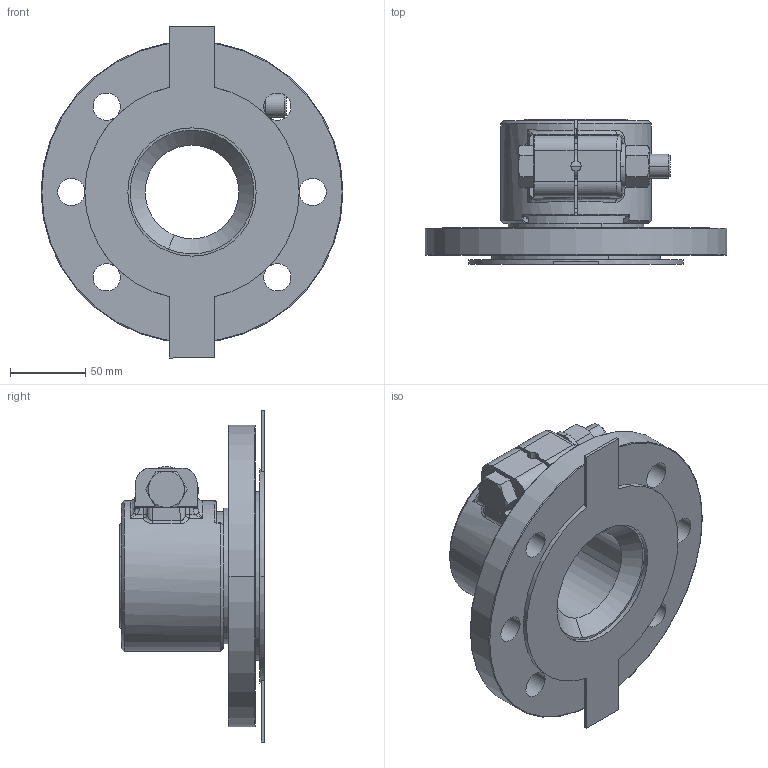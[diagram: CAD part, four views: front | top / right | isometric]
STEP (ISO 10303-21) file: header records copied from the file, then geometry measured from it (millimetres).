
FILE_DESCRIPTION (( 'STEP AP214' ), '1' );
FILE_NAME ('KP_C14-F5-90.step', '2012-05-23T14:31:38', ( 'robinj' ), ( 'Microsoft' ), 'SwSTEP 2.0', 'SolidWorks 2012', '' );
FILE_SCHEMA (( 'AUTOMOTIVE_DESIGN' ));
Length unit declared in the file: millimetre
Products named in the file (1): KP_C14-F5-90
Bounding box: 200 x 96 x 220 mm (x, y, z)
Volume: 757893.5 mm3; surface area: 218224.6 mm2
Topology: 8 solids, 8 shells, 428 faces, 1013 edges, 607 vertices
Faces by surface type: cylinder 128, plane 95, bspline 76, torus 66, cone 58, sphere 5
Entity records: 22168 total; most frequent: CARTESIAN_POINT 8014, ORIENTED_EDGE 2012, DIRECTION 1874, EDGE_CURVE 1006, AXIS2_PLACEMENT_3D 777, VERTEX_POINT 605, EDGE_LOOP 471, UNCERTAINTY_MEASURE_WITH_UNIT 438
